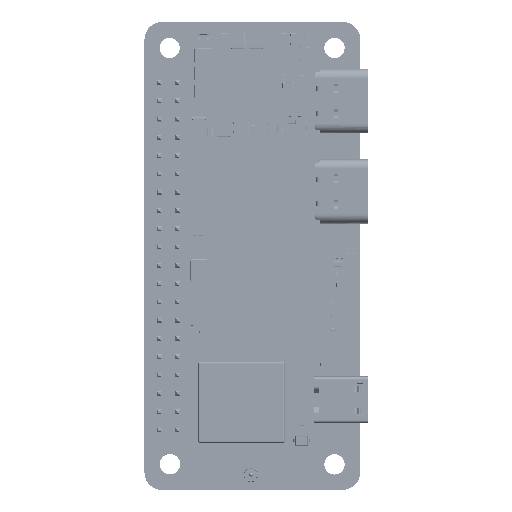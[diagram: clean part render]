
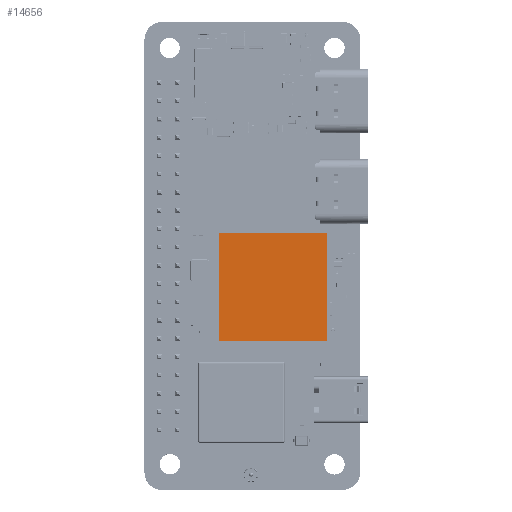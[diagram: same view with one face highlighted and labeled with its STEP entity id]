
A CAD part, top view. The second image highlights one B-rep face of the part: STEP entity #14656.
In plain terms, the highlighted planar face has unit normal (0, 0, 1).
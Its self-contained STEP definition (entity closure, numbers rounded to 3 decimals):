
#14541=DIRECTION('',(0.,-1.,0.));
#14542=VECTOR('',#14541,15.1);
#14543=CARTESIAN_POINT('',(-7.55,7.55,1.35));
#14544=LINE('',#14543,#14542);
#14545=DIRECTION('',(-1.,0.,0.));
#14546=VECTOR('',#14545,15.1);
#14547=CARTESIAN_POINT('',(7.55,7.55,1.35));
#14548=LINE('',#14547,#14546);
#14549=DIRECTION('',(0.,1.,0.));
#14550=VECTOR('',#14549,15.1);
#14551=CARTESIAN_POINT('',(7.55,-7.55,1.35));
#14552=LINE('',#14551,#14550);
#14553=DIRECTION('',(1.,0.,0.));
#14554=VECTOR('',#14553,15.1);
#14555=CARTESIAN_POINT('',(-7.55,-7.55,1.35));
#14556=LINE('',#14555,#14554);
#14565=CARTESIAN_POINT('',(-7.55,7.55,1.35));
#14566=CARTESIAN_POINT('',(-7.55,-7.55,1.35));
#14567=VERTEX_POINT('',#14565);
#14568=VERTEX_POINT('',#14566);
#14569=CARTESIAN_POINT('',(7.55,-7.55,1.35));
#14570=VERTEX_POINT('',#14569);
#14571=CARTESIAN_POINT('',(7.55,7.55,1.35));
#14572=VERTEX_POINT('',#14571);
#14645=CARTESIAN_POINT('',(0.,0.,1.35));
#14646=DIRECTION('',(0.,0.,1.));
#14647=DIRECTION('',(1.,0.,0.));
#14648=AXIS2_PLACEMENT_3D('',#14645,#14646,#14647);
#14649=PLANE('',#14648);
#14650=ORIENTED_EDGE('',*,*,#14597,.F.);
#14651=ORIENTED_EDGE('',*,*,#14612,.F.);
#14652=ORIENTED_EDGE('',*,*,#14626,.F.);
#14653=ORIENTED_EDGE('',*,*,#14639,.F.);
#14654=EDGE_LOOP('',(#14650,#14651,#14652,#14653));
#14655=FACE_OUTER_BOUND('',#14654,.F.);
#14656=ADVANCED_FACE('',(#14655),#14649,.T.);
#14597=EDGE_CURVE('',#14567,#14568,#14544,.T.);
#14612=EDGE_CURVE('',#14572,#14567,#14548,.T.);
#14626=EDGE_CURVE('',#14570,#14572,#14552,.T.);
#14639=EDGE_CURVE('',#14568,#14570,#14556,.T.);
